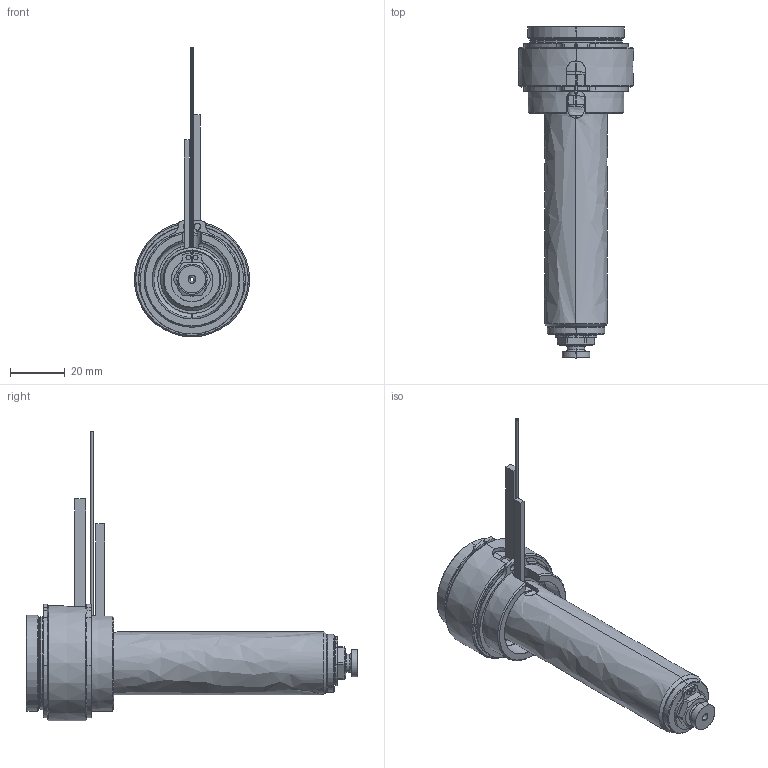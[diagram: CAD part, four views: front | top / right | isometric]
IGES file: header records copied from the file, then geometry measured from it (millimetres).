
Start section: SolidWorks IGES file using analytic representation for surfaces
Global section: file name: C:\Users\luca.EMPAD\Desktop\TEM\UGBE3502-S-A-5 [Ød-1.5 P-0 ØC-6.0].IGS; native system: SolidWorks 2012; preprocessor: SolidWorks 2012; author: luca; date: 120330.135640; units: millimetre
Bounding box: 42 x 121 x 105.6 mm (x, y, z)
Surface area: 28405.6 mm2 (no closed solid volume)
Topology: 0 solids, 0 shells, 185 faces, 3494 edges, 3494 vertices
Faces by surface type: revolution 117, bspline 68
